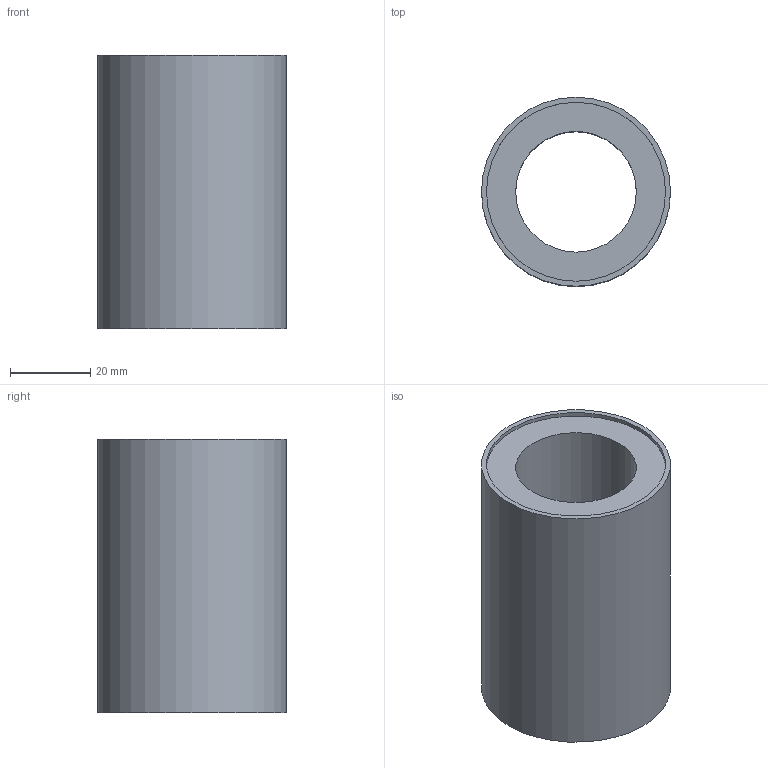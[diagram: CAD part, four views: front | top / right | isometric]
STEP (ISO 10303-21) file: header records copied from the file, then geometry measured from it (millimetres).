
FILE_DESCRIPTION(/* description */ (''),/* implementation_level */ '2;1');
FILE_NAME(/* name */ 'W:\WEBOVKY\Knecht\SBE-UU\SBE-30-UU\SBE-30-UU.stp',/* time_stamp */ '2021-03-08T13:15:05+01:00',/* author */ ('mkorenek'),/* organization */ (''),/* preprocessor_version */ 'ST-DEVELOPER v18.1',/* originating_system */ 'Autodesk Inventor 2021',/* authorisation */ '');
FILE_SCHEMA (('CONFIG_CONTROL_DESIGN','AUTOMOTIVE_DESIGN { 1 0 10303 214 3 1 1 }'));
Length unit declared in the file: millimetre
Products named in the file (3): LME-30-UU; vnějšek pouzdra; vnitřek pouzdra
Assembly tree (2 placements, depth 2):
  LME-30-UU
    vnějšek pouzdra
    vnitřek pouzdra
Bounding box: 47 x 47 x 68 mm (x, y, z)
Volume: 68166.9 mm3; surface area: 37046.9 mm2
Topology: 2 solids, 2 shells, 8 faces, 16 edges, 12 vertices
Faces by surface type: plane 4, cylinder 4
Full cylindrical faces by diameter (mm): 30 x1, 44.49 x1, 44.5 x1, 47 x1
Entity records: 359 total; most frequent: DIRECTION 54, CARTESIAN_POINT 41, ORIENTED_EDGE 32, AXIS2_PLACEMENT_3D 25, EDGE_CURVE 16, EDGE_LOOP 12, CIRCLE 12, VERTEX_POINT 12
